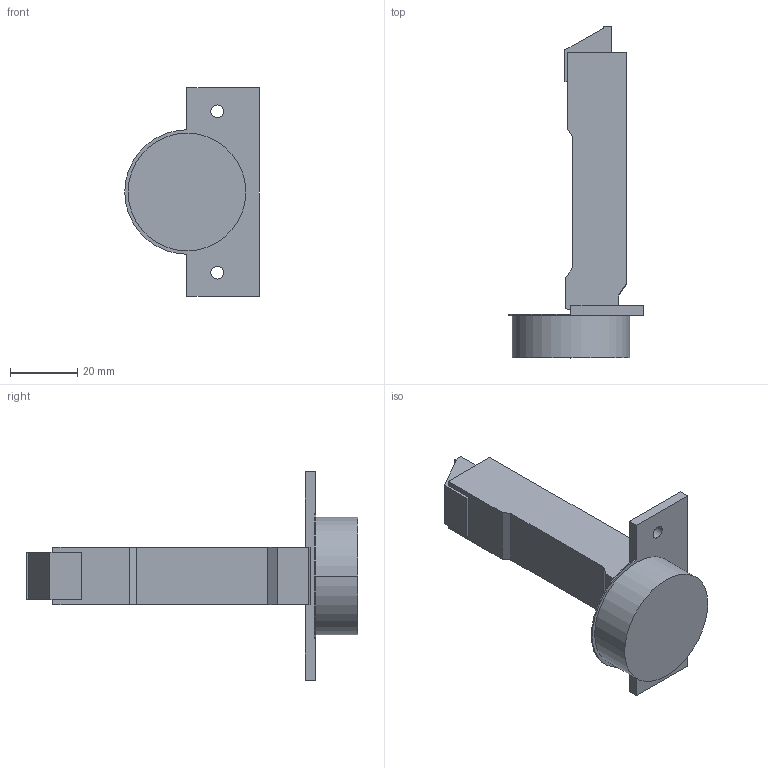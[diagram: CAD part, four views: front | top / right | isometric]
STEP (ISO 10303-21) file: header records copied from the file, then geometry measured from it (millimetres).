
FILE_DESCRIPTION (( 'STEP AP214' ), '1' );
FILE_NAME ('Scharnier T Click-on 95° M_BB, K03.step', '2010-12-06T09:50:00', ( 'grass' ), ( '' ), 'SwSTEP 2.0', 'SolidWorks 2010', '' );
FILE_SCHEMA (( 'AUTOMOTIVE_DESIGN' ));
Length unit declared in the file: millimetre
Products named in the file (1): Scharnier T Click-on 95° M_BB, K03
Bounding box: 40 x 98.7 x 62 mm (x, y, z)
Volume: 38372.2 mm3; surface area: 11220.1 mm2
Topology: 1 solids, 1 shells, 46 faces, 120 edges, 80 vertices
Faces by surface type: plane 33, cylinder 13
Entity records: 1452 total; most frequent: CARTESIAN_POINT 247, ORIENTED_EDGE 240, DIRECTION 240, EDGE_CURVE 120, VECTOR 94, LINE 94, VERTEX_POINT 80, AXIS2_PLACEMENT_3D 73
